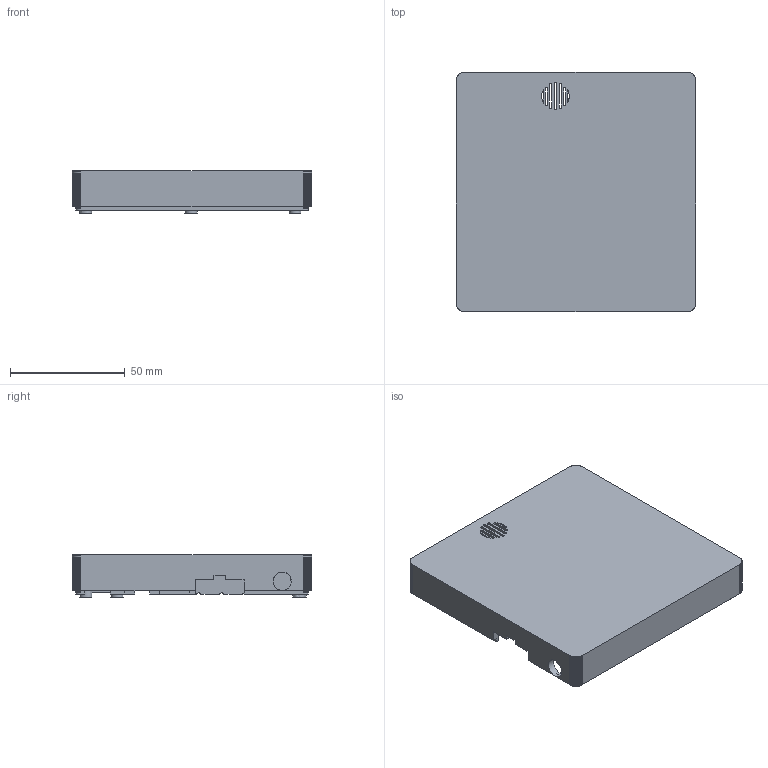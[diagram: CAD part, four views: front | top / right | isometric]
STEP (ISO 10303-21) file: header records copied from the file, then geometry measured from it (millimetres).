
FILE_DESCRIPTION(('Designed by EasyEDA Pro'),'2;1');
FILE_NAME('Open CASCADE Shape Model','2024-12-04T17:52:07',('Author'),( 'Open CASCADE'),'Open CASCADE STEP processor 7.8','Open CASCADE 7.8' ,'Unknown');
FILE_SCHEMA(('AUTOMOTIVE_DESIGN { 1 0 10303 214 1 1 1 1 }'));
Products named in the file (1): Open CASCADE STEP translator 7.8 1
Bounding box: 104.4 x 104.4 x 18.3 mm (x, y, z)
Volume: 35025.1 mm3; surface area: 36697.7 mm2
Topology: 1 solids, 1 shells, 1021 faces, 3049 edges, 2033 vertices
Faces by surface type: bspline 1021
Entity records: 68681 total; most frequent: CARTESIAN_POINT 29106, B_SPLINE_CURVE_WITH_KNOTS 9025, ORIENTED_EDGE 6098, PCURVE 6098, DEFINITIONAL_REPRESENTATION 6098, EDGE_CURVE 3049, SURFACE_CURVE 3040, VERTEX_POINT 2033
